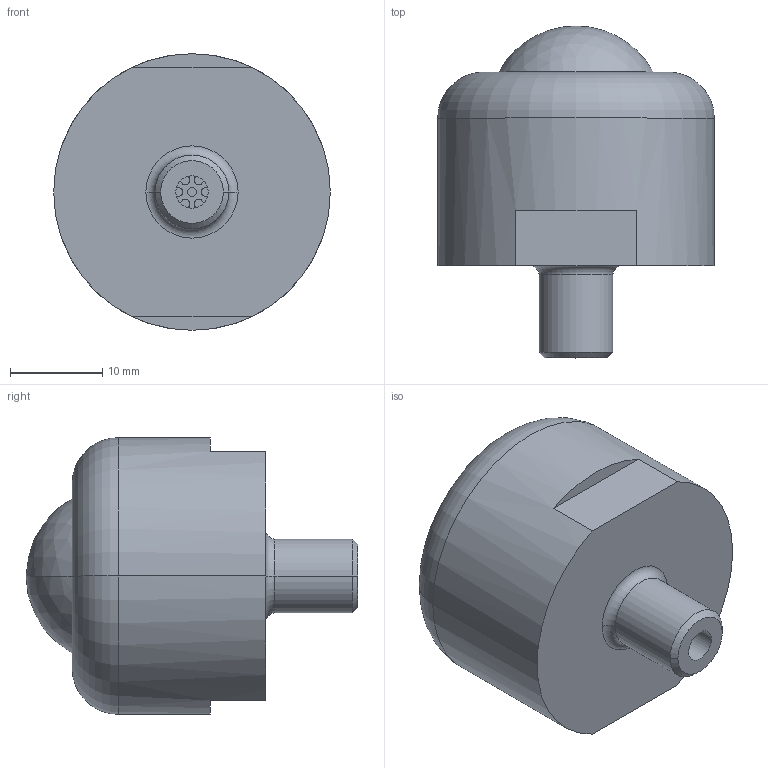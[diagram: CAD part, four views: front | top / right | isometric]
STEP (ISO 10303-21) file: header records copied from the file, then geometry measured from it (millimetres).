
FILE_DESCRIPTION (( 'STEP AP203' ), '1' );
FILE_NAME ('PV50BH.STEP', '2015-12-03T06:11:58', ( '' ), ( '' ), 'SwSTEP 2.0', 'SolidWorks 2013', '' );
FILE_SCHEMA (( 'CONFIG_CONTROL_DESIGN' ));
Length unit declared in the file: millimetre
Products named in the file (1): PV50BH
Bounding box: 30 x 36 x 30 mm (x, y, z)
Volume: 15189.9 mm3; surface area: 3699.8 mm2
Topology: 1 solids, 1 shells, 58 faces, 118 edges, 76 vertices
Faces by surface type: cylinder 27, plane 21, cone 4, torus 4, sphere 2
Entity records: 1670 total; most frequent: CARTESIAN_POINT 309, DIRECTION 303, ORIENTED_EDGE 236, AXIS2_PLACEMENT_3D 134, EDGE_CURVE 118, VERTEX_POINT 76, CIRCLE 75, EDGE_LOOP 72
